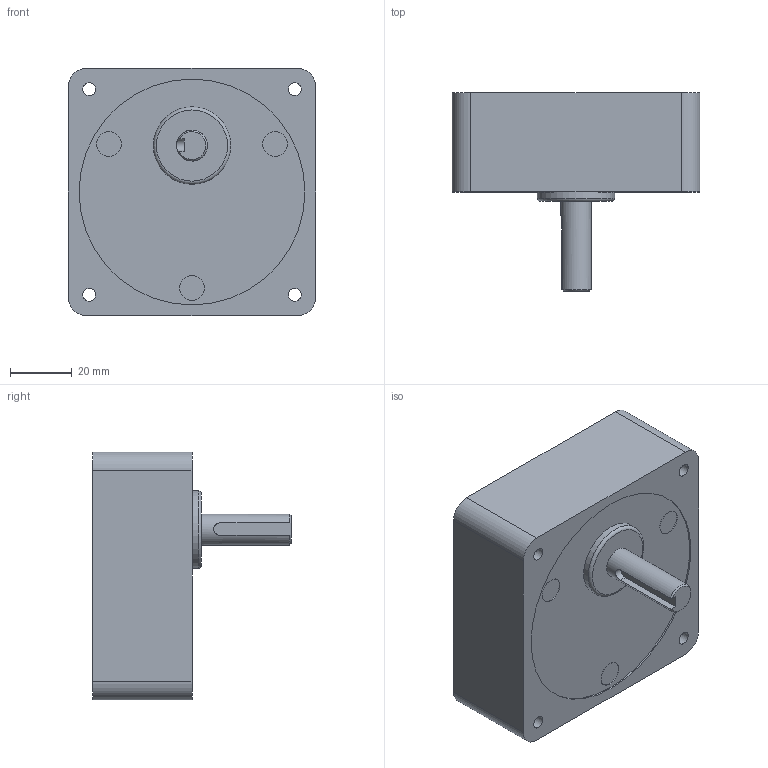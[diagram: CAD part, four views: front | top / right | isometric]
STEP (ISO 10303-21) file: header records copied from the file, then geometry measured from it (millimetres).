
FILE_DESCRIPTION((''),'2;1');
FILE_NAME('\\Servert1600\threepeace\2015homepage\STP\HP-Data_Gearhead_3D_STEP\DM-2.stp','2016-11-18T10:34:01',('Administrator'),(''),'Autodesk Inventor 2010','Autodesk Inventor 2010','');
FILE_SCHEMA(('AUTOMOTIVE_DESIGN { 1 0 10303 214 1 1 1 1 }'));
Length unit declared in the file: millimetre
Products named in the file (1): DM-2-ギアヘッド単品
Bounding box: 80 x 64 x 80 mm (x, y, z)
Volume: 190417.3 mm3; surface area: 27410.3 mm2
Topology: 2 solids, 2 shells, 43 faces, 87 edges, 58 vertices
Faces by surface type: plane 17, cylinder 12, bspline 12, torus 1, cone 1
Full cylindrical faces by diameter (mm): 8 x3, 10 x1, 25 x1, 73 x2
Entity records: 1213 total; most frequent: CARTESIAN_POINT 341, DIRECTION 171, ORIENTED_EDGE 140, EDGE_LOOP 77, AXIS2_PLACEMENT_3D 73, EDGE_CURVE 70, VERTEX_POINT 57, FACE_OUTER_BOUND 43
